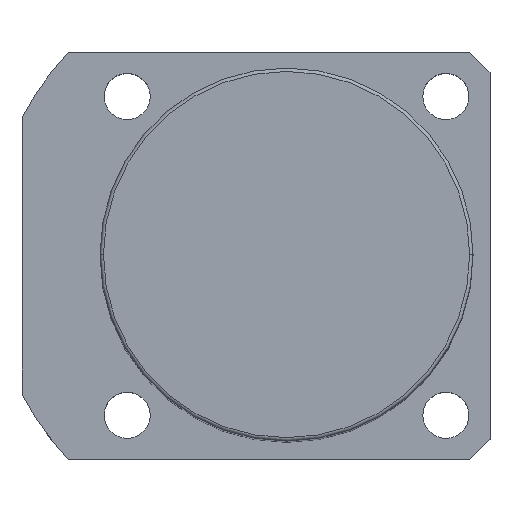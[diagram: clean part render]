
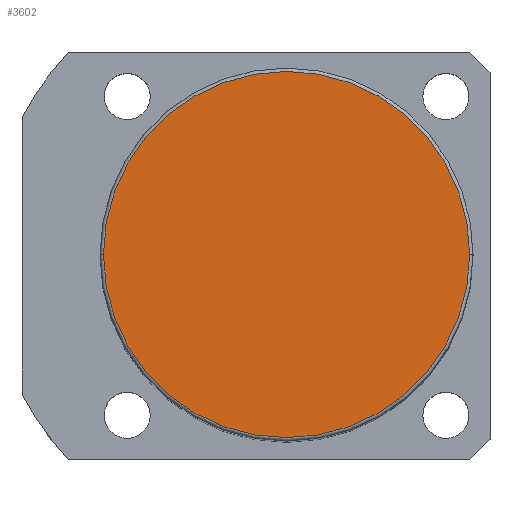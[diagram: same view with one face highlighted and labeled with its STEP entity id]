
A CAD part, top view. The second image highlights one B-rep face of the part: STEP entity #3602.
In plain terms, the highlighted planar face has unit normal (0, 0, 1).
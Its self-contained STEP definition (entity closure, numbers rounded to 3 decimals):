
#148 = EDGE_CURVE ( 'NONE', #4236, #1925, #2959, .T. ) ;
#174 = CARTESIAN_POINT ( 'NONE',  ( 27., 0., 121. ) ) ;
#644 = EDGE_LOOP ( 'NONE', ( #3351, #3737 ) ) ;
#868 = CARTESIAN_POINT ( 'NONE',  ( 0., 0., 121. ) ) ;
#1205 = CARTESIAN_POINT ( 'NONE',  ( 0., 0., 121. ) ) ;
#1608 = DIRECTION ( 'NONE',  ( 1., 0., 0. ) ) ;
#1673 = DIRECTION ( 'NONE',  ( 1., 0., 0. ) ) ;
#1872 = FACE_OUTER_BOUND ( 'NONE', #644, .T. ) ;
#1925 = VERTEX_POINT ( 'NONE', #4561 ) ;
#2053 = AXIS2_PLACEMENT_3D ( 'NONE', #1205, #3973, #1608 ) ;
#2107 = CIRCLE ( 'NONE', #2053, 27. ) ;
#2575 = AXIS2_PLACEMENT_3D ( 'NONE', #3933, #4500, #4457 ) ;
#2959 = CIRCLE ( 'NONE', #2575, 27. ) ;
#3263 = PLANE ( 'NONE',  #3652 ) ;
#3351 = ORIENTED_EDGE ( 'NONE', *, *, #148, .T. ) ;
#3523 = EDGE_CURVE ( 'NONE', #1925, #4236, #2107, .T. ) ;
#3602 = ADVANCED_FACE ( 'NONE', ( #1872 ), #3263, .T. ) ;
#3652 = AXIS2_PLACEMENT_3D ( 'NONE', #868, #4042, #1673 ) ;
#3737 = ORIENTED_EDGE ( 'NONE', *, *, #3523, .T. ) ;
#3933 = CARTESIAN_POINT ( 'NONE',  ( 0., 0., 121. ) ) ;
#3973 = DIRECTION ( 'NONE',  ( 0., 0., 1. ) ) ;
#4042 = DIRECTION ( 'NONE',  ( 0., 0., 1. ) ) ;
#4236 = VERTEX_POINT ( 'NONE', #174 ) ;
#4457 = DIRECTION ( 'NONE',  ( 1., 0., 0. ) ) ;
#4500 = DIRECTION ( 'NONE',  ( 0., 0., 1. ) ) ;
#4561 = CARTESIAN_POINT ( 'NONE',  ( -27., 0., 121. ) ) ;
